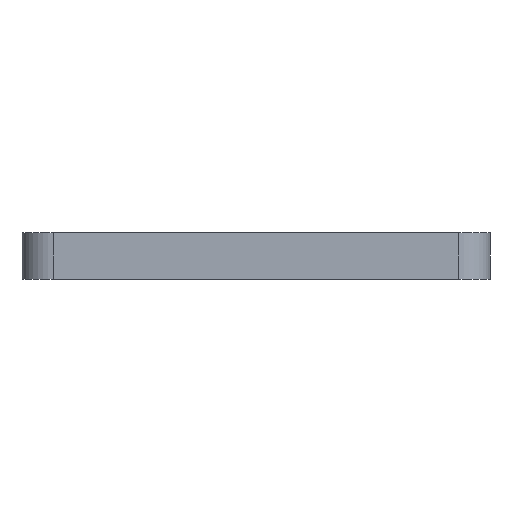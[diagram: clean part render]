
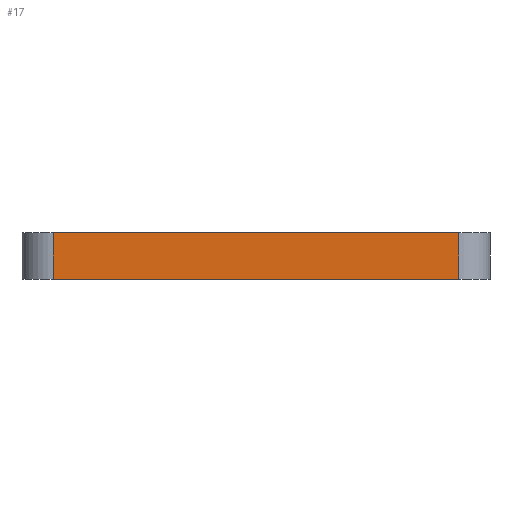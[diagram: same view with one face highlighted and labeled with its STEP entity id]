
A CAD part, left-side view. The second image highlights one B-rep face of the part: STEP entity #17.
In plain terms, the highlighted planar face has unit normal (-1, 0, 0).
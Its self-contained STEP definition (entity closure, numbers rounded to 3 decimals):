
#17 = ADVANCED_FACE('',(#18),#32,.F.);
#18 = FACE_BOUND('',#19,.F.);
#19 = EDGE_LOOP('',(#20,#55,#83,#111));
#20 = ORIENTED_EDGE('',*,*,#21,.F.);
#21 = EDGE_CURVE('',#22,#24,#26,.T.);
#22 = VERTEX_POINT('',#23);
#23 = CARTESIAN_POINT('',(-22.,-13.,3.));
#24 = VERTEX_POINT('',#25);
#25 = CARTESIAN_POINT('',(-22.,13.,3.));
#26 = SURFACE_CURVE('',#27,(#31,#43),.PCURVE_S1.);
#27 = LINE('',#28,#29);
#28 = CARTESIAN_POINT('',(-22.,-15.,3.));
#29 = VECTOR('',#30,1.);
#30 = DIRECTION('',(0.,1.,0.));
#31 = PCURVE('',#32,#37);
#32 = PLANE('',#33);
#33 = AXIS2_PLACEMENT_3D('',#34,#35,#36);
#34 = CARTESIAN_POINT('',(-22.,-15.,0.));
#35 = DIRECTION('',(1.,0.,0.));
#36 = DIRECTION('',(0.,0.,1.));
#37 = DEFINITIONAL_REPRESENTATION('',(#38),#42);
#38 = LINE('',#39,#40);
#39 = CARTESIAN_POINT('',(3.,0.));
#40 = VECTOR('',#41,1.);
#41 = DIRECTION('',(0.,-1.));
#42 = ( GEOMETRIC_REPRESENTATION_CONTEXT(2) 
PARAMETRIC_REPRESENTATION_CONTEXT() REPRESENTATION_CONTEXT('2D SPACE',''
  ) );
#43 = PCURVE('',#44,#49);
#44 = PLANE('',#45);
#45 = AXIS2_PLACEMENT_3D('',#46,#47,#48);
#46 = CARTESIAN_POINT('',(-22.,-15.,3.));
#47 = DIRECTION('',(0.,0.,1.));
#48 = DIRECTION('',(1.,0.,0.));
#49 = DEFINITIONAL_REPRESENTATION('',(#50),#54);
#50 = LINE('',#51,#52);
#51 = CARTESIAN_POINT('',(0.,0.));
#52 = VECTOR('',#53,1.);
#53 = DIRECTION('',(0.,1.));
#54 = ( GEOMETRIC_REPRESENTATION_CONTEXT(2) 
PARAMETRIC_REPRESENTATION_CONTEXT() REPRESENTATION_CONTEXT('2D SPACE',''
  ) );
#55 = ORIENTED_EDGE('',*,*,#56,.F.);
#56 = EDGE_CURVE('',#57,#22,#59,.T.);
#57 = VERTEX_POINT('',#58);
#58 = CARTESIAN_POINT('',(-22.,-13.,0.));
#59 = SURFACE_CURVE('',#60,(#64,#71),.PCURVE_S1.);
#60 = LINE('',#61,#62);
#61 = CARTESIAN_POINT('',(-22.,-13.,0.));
#62 = VECTOR('',#63,1.);
#63 = DIRECTION('',(0.,0.,1.));
#64 = PCURVE('',#32,#65);
#65 = DEFINITIONAL_REPRESENTATION('',(#66),#70);
#66 = LINE('',#67,#68);
#67 = CARTESIAN_POINT('',(0.,-2.));
#68 = VECTOR('',#69,1.);
#69 = DIRECTION('',(1.,0.));
#70 = ( GEOMETRIC_REPRESENTATION_CONTEXT(2) 
PARAMETRIC_REPRESENTATION_CONTEXT() REPRESENTATION_CONTEXT('2D SPACE',''
  ) );
#71 = PCURVE('',#72,#77);
#72 = CYLINDRICAL_SURFACE('',#73,2.);
#73 = AXIS2_PLACEMENT_3D('',#74,#75,#76);
#74 = CARTESIAN_POINT('',(-20.,-13.,0.));
#75 = DIRECTION('',(0.,0.,1.));
#76 = DIRECTION('',(-1.,-0.,0.));
#77 = DEFINITIONAL_REPRESENTATION('',(#78),#82);
#78 = LINE('',#79,#80);
#79 = CARTESIAN_POINT('',(0.,0.));
#80 = VECTOR('',#81,1.);
#81 = DIRECTION('',(0.,1.));
#82 = ( GEOMETRIC_REPRESENTATION_CONTEXT(2) 
PARAMETRIC_REPRESENTATION_CONTEXT() REPRESENTATION_CONTEXT('2D SPACE',''
  ) );
#83 = ORIENTED_EDGE('',*,*,#84,.T.);
#84 = EDGE_CURVE('',#57,#85,#87,.T.);
#85 = VERTEX_POINT('',#86);
#86 = CARTESIAN_POINT('',(-22.,13.,0.));
#87 = SURFACE_CURVE('',#88,(#92,#99),.PCURVE_S1.);
#88 = LINE('',#89,#90);
#89 = CARTESIAN_POINT('',(-22.,-15.,0.));
#90 = VECTOR('',#91,1.);
#91 = DIRECTION('',(0.,1.,0.));
#92 = PCURVE('',#32,#93);
#93 = DEFINITIONAL_REPRESENTATION('',(#94),#98);
#94 = LINE('',#95,#96);
#95 = CARTESIAN_POINT('',(0.,0.));
#96 = VECTOR('',#97,1.);
#97 = DIRECTION('',(0.,-1.));
#98 = ( GEOMETRIC_REPRESENTATION_CONTEXT(2) 
PARAMETRIC_REPRESENTATION_CONTEXT() REPRESENTATION_CONTEXT('2D SPACE',''
  ) );
#99 = PCURVE('',#100,#105);
#100 = PLANE('',#101);
#101 = AXIS2_PLACEMENT_3D('',#102,#103,#104);
#102 = CARTESIAN_POINT('',(-22.,-15.,0.));
#103 = DIRECTION('',(0.,0.,1.));
#104 = DIRECTION('',(1.,0.,0.));
#105 = DEFINITIONAL_REPRESENTATION('',(#106),#110);
#106 = LINE('',#107,#108);
#107 = CARTESIAN_POINT('',(0.,0.));
#108 = VECTOR('',#109,1.);
#109 = DIRECTION('',(0.,1.));
#110 = ( GEOMETRIC_REPRESENTATION_CONTEXT(2) 
PARAMETRIC_REPRESENTATION_CONTEXT() REPRESENTATION_CONTEXT('2D SPACE',''
  ) );
#111 = ORIENTED_EDGE('',*,*,#112,.T.);
#112 = EDGE_CURVE('',#85,#24,#113,.T.);
#113 = SURFACE_CURVE('',#114,(#118,#125),.PCURVE_S1.);
#114 = LINE('',#115,#116);
#115 = CARTESIAN_POINT('',(-22.,13.,0.));
#116 = VECTOR('',#117,1.);
#117 = DIRECTION('',(0.,0.,1.));
#118 = PCURVE('',#32,#119);
#119 = DEFINITIONAL_REPRESENTATION('',(#120),#124);
#120 = LINE('',#121,#122);
#121 = CARTESIAN_POINT('',(0.,-28.));
#122 = VECTOR('',#123,1.);
#123 = DIRECTION('',(1.,0.));
#124 = ( GEOMETRIC_REPRESENTATION_CONTEXT(2) 
PARAMETRIC_REPRESENTATION_CONTEXT() REPRESENTATION_CONTEXT('2D SPACE',''
  ) );
#125 = PCURVE('',#126,#131);
#126 = CYLINDRICAL_SURFACE('',#127,2.);
#127 = AXIS2_PLACEMENT_3D('',#128,#129,#130);
#128 = CARTESIAN_POINT('',(-20.,13.,0.));
#129 = DIRECTION('',(0.,0.,1.));
#130 = DIRECTION('',(-1.,-0.,0.));
#131 = DEFINITIONAL_REPRESENTATION('',(#132),#136);
#132 = LINE('',#133,#134);
#133 = CARTESIAN_POINT('',(-0.,0.));
#134 = VECTOR('',#135,1.);
#135 = DIRECTION('',(-0.,1.));
#136 = ( GEOMETRIC_REPRESENTATION_CONTEXT(2) 
PARAMETRIC_REPRESENTATION_CONTEXT() REPRESENTATION_CONTEXT('2D SPACE',''
  ) );
